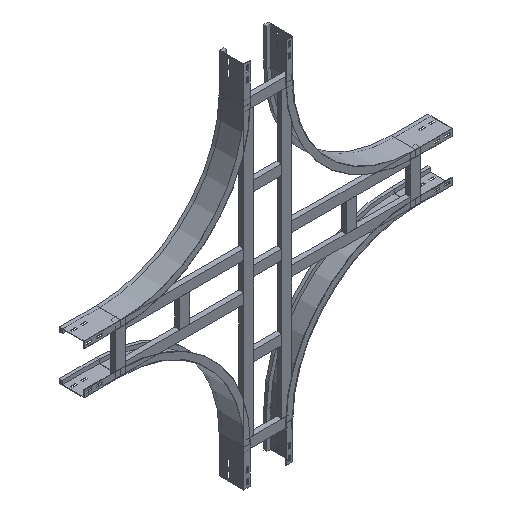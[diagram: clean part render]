
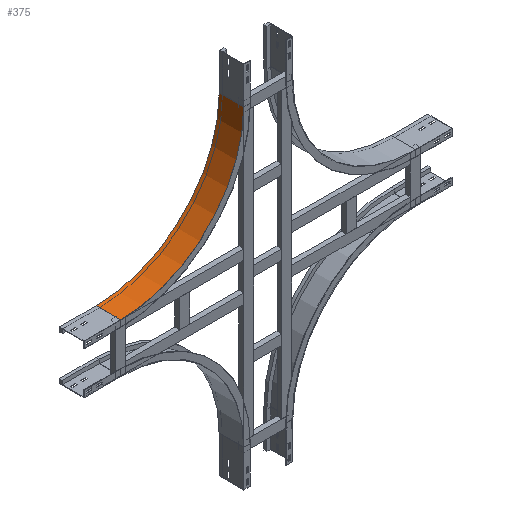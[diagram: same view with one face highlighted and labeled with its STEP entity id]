
A CAD part, isometric view. The second image highlights one B-rep face of the part: STEP entity #375.
In plain terms, the highlighted cylindrical face has radius 500 mm (diameter 1000 mm), a partial arc.
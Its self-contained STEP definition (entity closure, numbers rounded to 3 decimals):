
#129 = AXIS2_PLACEMENT_3D ( 'NONE', #2288, #898, #1597 ) ;
#169 = CIRCLE ( 'NONE', #884, 500. ) ;
#375 = ADVANCED_FACE ( 'NONE', ( #2738 ), #688, .F. ) ;
#377 = DIRECTION ( 'NONE',  ( 0., 1., 0. ) ) ;
#428 = DIRECTION ( 'NONE',  ( -1., 0., 0. ) ) ;
#593 = LINE ( 'NONE', #2445, #1859 ) ;
#684 = VERTEX_POINT ( 'NONE', #2225 ) ;
#688 = CYLINDRICAL_SURFACE ( 'NONE', #129, 500. ) ;
#698 = CARTESIAN_POINT ( 'NONE',  ( 500., 100., -150. ) ) ;
#738 = LINE ( 'NONE', #2313, #1133 ) ;
#884 = AXIS2_PLACEMENT_3D ( 'NONE', #698, #1609, #2504 ) ;
#898 = DIRECTION ( 'NONE',  ( 0., -1., 0. ) ) ;
#996 = ORIENTED_EDGE ( 'NONE', *, *, #1250, .T. ) ;
#1110 = EDGE_CURVE ( 'NONE', #1154, #2324, #593, .T. ) ;
#1133 = VECTOR ( 'NONE', #2562, 1000. ) ;
#1154 = VERTEX_POINT ( 'NONE', #1964 ) ;
#1202 = ORIENTED_EDGE ( 'NONE', *, *, #2301, .F. ) ;
#1250 = EDGE_CURVE ( 'NONE', #1154, #684, #2723, .T. ) ;
#1344 = CARTESIAN_POINT ( 'NONE',  ( 500., 0., -150. ) ) ;
#1585 = ORIENTED_EDGE ( 'NONE', *, *, #1110, .F. ) ;
#1597 = DIRECTION ( 'NONE',  ( 0., 0., -1. ) ) ;
#1609 = DIRECTION ( 'NONE',  ( 0., -1., 0. ) ) ;
#1751 = EDGE_LOOP ( 'NONE', ( #1202, #1585, #996, #2069 ) ) ;
#1859 = VECTOR ( 'NONE', #377, 1000. ) ;
#1963 = VERTEX_POINT ( 'NONE', #2831 ) ;
#1964 = CARTESIAN_POINT ( 'NONE',  ( 0., 0., -150. ) ) ;
#2069 = ORIENTED_EDGE ( 'NONE', *, *, #2828, .T. ) ;
#2225 = CARTESIAN_POINT ( 'NONE',  ( 500., 0., -650. ) ) ;
#2235 = DIRECTION ( 'NONE',  ( 0., -1., 0. ) ) ;
#2288 = CARTESIAN_POINT ( 'NONE',  ( 500., 0., -150. ) ) ;
#2301 = EDGE_CURVE ( 'NONE', #2324, #1963, #169, .T. ) ;
#2313 = CARTESIAN_POINT ( 'NONE',  ( 500., 0., -650. ) ) ;
#2324 = VERTEX_POINT ( 'NONE', #2349 ) ;
#2349 = CARTESIAN_POINT ( 'NONE',  ( 0., 100., -150. ) ) ;
#2410 = AXIS2_PLACEMENT_3D ( 'NONE', #1344, #2235, #428 ) ;
#2445 = CARTESIAN_POINT ( 'NONE',  ( 0., 0., -150. ) ) ;
#2504 = DIRECTION ( 'NONE',  ( -1., 0., 0. ) ) ;
#2562 = DIRECTION ( 'NONE',  ( 0., 1., 0. ) ) ;
#2723 = CIRCLE ( 'NONE', #2410, 500. ) ;
#2738 = FACE_OUTER_BOUND ( 'NONE', #1751, .T. ) ;
#2828 = EDGE_CURVE ( 'NONE', #684, #1963, #738, .T. ) ;
#2831 = CARTESIAN_POINT ( 'NONE',  ( 500., 100., -650. ) ) ;
